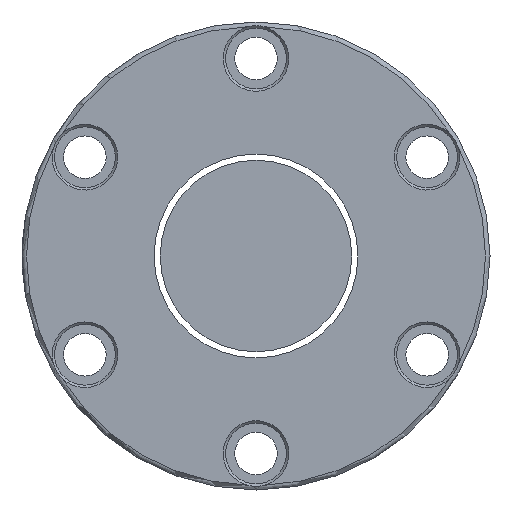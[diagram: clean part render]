
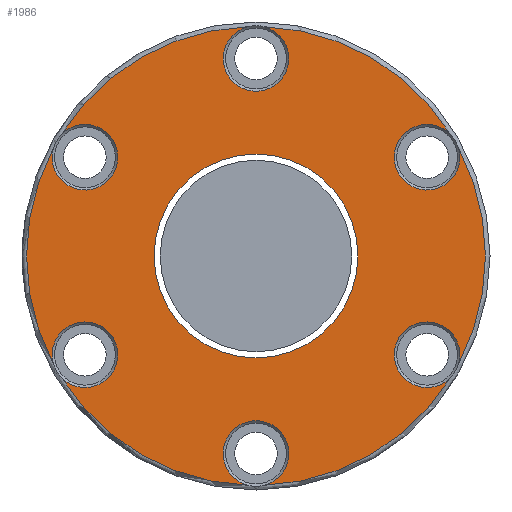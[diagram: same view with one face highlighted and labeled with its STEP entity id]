
A CAD part, left-side view. The second image highlights one B-rep face of the part: STEP entity #1986.
In plain terms, the highlighted planar face has unit normal (-1, 0, 0).
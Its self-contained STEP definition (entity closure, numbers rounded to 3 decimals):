
#8 = DIRECTION ( 'NONE',  ( -1., 0., 0. ) ) ;
#144 = PLANE ( 'NONE',  #2792 ) ;
#153 = ORIENTED_EDGE ( 'NONE', *, *, #2404, .T. ) ;
#173 = EDGE_CURVE ( 'NONE', #341, #1084, #1391, .T. ) ;
#187 = DIRECTION ( 'NONE',  ( 0., 0., -1. ) ) ;
#222 = CARTESIAN_POINT ( 'NONE',  ( -105., -63.98, 40.084 ) ) ;
#241 = CIRCLE ( 'NONE', #1026, 10.8 ) ;
#251 = ORIENTED_EDGE ( 'NONE', *, *, #1995, .T. ) ;
#273 = CARTESIAN_POINT ( 'NONE',  ( -105., 2.724, -75.451 ) ) ;
#285 = VERTEX_POINT ( 'NONE', #3131 ) ;
#305 = CIRCLE ( 'NONE', #474, 33.55 ) ;
#309 = CARTESIAN_POINT ( 'NONE',  ( -105., -56.292, 32.5 ) ) ;
#341 = VERTEX_POINT ( 'NONE', #2120 ) ;
#387 = DIRECTION ( 'NONE',  ( 0., 0., 1. ) ) ;
#392 = DIRECTION ( 'NONE',  ( 0., 0., 1. ) ) ;
#413 = CIRCLE ( 'NONE', #857, 10.8 ) ;
#419 = DIRECTION ( 'NONE',  ( 1., 0., 0. ) ) ;
#441 = FACE_OUTER_BOUND ( 'NONE', #2894, .T. ) ;
#474 = AXIS2_PLACEMENT_3D ( 'NONE', #3413, #2096, #187 ) ;
#517 = CARTESIAN_POINT ( 'NONE',  ( -105., 0., 0. ) ) ;
#521 = CARTESIAN_POINT ( 'NONE',  ( -105., -66.704, -35.366 ) ) ;
#705 = CARTESIAN_POINT ( 'NONE',  ( -105., 0., 0. ) ) ;
#734 = DIRECTION ( 'NONE',  ( -1., 0., 0. ) ) ;
#747 = AXIS2_PLACEMENT_3D ( 'NONE', #1987, #1476, #3042 ) ;
#776 = ORIENTED_EDGE ( 'NONE', *, *, #1338, .T. ) ;
#857 = AXIS2_PLACEMENT_3D ( 'NONE', #309, #1649, #1364 ) ;
#865 = AXIS2_PLACEMENT_3D ( 'NONE', #2569, #2301, #2587 ) ;
#912 = CARTESIAN_POINT ( 'NONE',  ( -105., -66.704, 35.366 ) ) ;
#920 = CIRCLE ( 'NONE', #1031, 10.8 ) ;
#932 = CARTESIAN_POINT ( 'NONE',  ( -105., 77., 0. ) ) ;
#968 = CIRCLE ( 'NONE', #747, 75.5 ) ;
#971 = VERTEX_POINT ( 'NONE', #2026 ) ;
#1012 = CARTESIAN_POINT ( 'NONE',  ( -105., 56.292, -32.5 ) ) ;
#1022 = EDGE_CURVE ( 'NONE', #285, #2076, #1186, .T. ) ;
#1026 = AXIS2_PLACEMENT_3D ( 'NONE', #1054, #2689, #1897 ) ;
#1031 = AXIS2_PLACEMENT_3D ( 'NONE', #1146, #419, #387 ) ;
#1054 = CARTESIAN_POINT ( 'NONE',  ( -105., 0., -65. ) ) ;
#1068 = VERTEX_POINT ( 'NONE', #2907 ) ;
#1084 = VERTEX_POINT ( 'NONE', #1544 ) ;
#1137 = ORIENTED_EDGE ( 'NONE', *, *, #1507, .T. ) ;
#1146 = CARTESIAN_POINT ( 'NONE',  ( -105., -56.292, -32.5 ) ) ;
#1152 = EDGE_CURVE ( 'NONE', #3423, #285, #3130, .T. ) ;
#1186 = CIRCLE ( 'NONE', #2074, 10.8 ) ;
#1189 = AXIS2_PLACEMENT_3D ( 'NONE', #2758, #2243, #1214 ) ;
#1200 = DIRECTION ( 'NONE',  ( -1., 0., 0. ) ) ;
#1214 = DIRECTION ( 'NONE',  ( 0., 0., 1. ) ) ;
#1337 = ORIENTED_EDGE ( 'NONE', *, *, #2993, .T. ) ;
#1338 = EDGE_CURVE ( 'NONE', #1878, #2598, #413, .T. ) ;
#1364 = DIRECTION ( 'NONE',  ( 0., 0., 1. ) ) ;
#1391 = CIRCLE ( 'NONE', #2885, 75.5 ) ;
#1408 = CIRCLE ( 'NONE', #1189, 10.8 ) ;
#1476 = DIRECTION ( 'NONE',  ( -1., 0., 0. ) ) ;
#1479 = CARTESIAN_POINT ( 'NONE',  ( -105., -2.724, -75.451 ) ) ;
#1507 = EDGE_CURVE ( 'NONE', #3410, #1634, #241, .T. ) ;
#1509 = DIRECTION ( 'NONE',  ( 0., 0., 1. ) ) ;
#1544 = CARTESIAN_POINT ( 'NONE',  ( -105., 63.98, 40.084 ) ) ;
#1581 = ORIENTED_EDGE ( 'NONE', *, *, #3280, .T. ) ;
#1610 = DIRECTION ( 'NONE',  ( 0., 0., 1. ) ) ;
#1615 = ORIENTED_EDGE ( 'NONE', *, *, #1935, .T. ) ;
#1634 = VERTEX_POINT ( 'NONE', #1479 ) ;
#1640 = CIRCLE ( 'NONE', #3246, 75.5 ) ;
#1649 = DIRECTION ( 'NONE',  ( 1., 0., 0. ) ) ;
#1790 = DIRECTION ( 'NONE',  ( 0., 0., 1. ) ) ;
#1822 = CARTESIAN_POINT ( 'NONE',  ( -105., 0., 0. ) ) ;
#1863 = EDGE_LOOP ( 'NONE', ( #1337 ) ) ;
#1871 = ORIENTED_EDGE ( 'NONE', *, *, #173, .T. ) ;
#1878 = VERTEX_POINT ( 'NONE', #912 ) ;
#1897 = DIRECTION ( 'NONE',  ( 0., 0., 1. ) ) ;
#1934 = ORIENTED_EDGE ( 'NONE', *, *, #1022, .T. ) ;
#1935 = EDGE_CURVE ( 'NONE', #2075, #1878, #968, .T. ) ;
#1944 = EDGE_CURVE ( 'NONE', #1068, #341, #1408, .T. ) ;
#1976 = CARTESIAN_POINT ( 'NONE',  ( -105., 66.704, 35.366 ) ) ;
#1986 = ADVANCED_FACE ( 'NONE', ( #441, #2810 ), #144, .T. ) ;
#1987 = CARTESIAN_POINT ( 'NONE',  ( -105., 0., 0. ) ) ;
#1995 = EDGE_CURVE ( 'NONE', #2076, #3410, #3190, .T. ) ;
#2026 = CARTESIAN_POINT ( 'NONE',  ( -105., 0., -33.55 ) ) ;
#2067 = DIRECTION ( 'NONE',  ( 0., 0., 1. ) ) ;
#2074 = AXIS2_PLACEMENT_3D ( 'NONE', #1012, #2354, #2067 ) ;
#2075 = VERTEX_POINT ( 'NONE', #521 ) ;
#2076 = VERTEX_POINT ( 'NONE', #3403 ) ;
#2096 = DIRECTION ( 'NONE',  ( 1., 0., 0. ) ) ;
#2120 = CARTESIAN_POINT ( 'NONE',  ( -105., 2.724, 75.451 ) ) ;
#2128 = DIRECTION ( 'NONE',  ( 0., 0., 1. ) ) ;
#2226 = DIRECTION ( 'NONE',  ( 0., 0., 1. ) ) ;
#2243 = DIRECTION ( 'NONE',  ( 1., 0., 0. ) ) ;
#2259 = CARTESIAN_POINT ( 'NONE',  ( -105., 0., 0. ) ) ;
#2291 = AXIS2_PLACEMENT_3D ( 'NONE', #1822, #734, #1790 ) ;
#2292 = DIRECTION ( 'NONE',  ( -1., 0., 0. ) ) ;
#2301 = DIRECTION ( 'NONE',  ( 1., 0., 0. ) ) ;
#2354 = DIRECTION ( 'NONE',  ( 1., 0., 0. ) ) ;
#2404 = EDGE_CURVE ( 'NONE', #3062, #2075, #920, .T. ) ;
#2564 = AXIS2_PLACEMENT_3D ( 'NONE', #517, #3176, #1610 ) ;
#2565 = EDGE_CURVE ( 'NONE', #1084, #3423, #2959, .T. ) ;
#2569 = CARTESIAN_POINT ( 'NONE',  ( -105., 56.292, 32.5 ) ) ;
#2587 = DIRECTION ( 'NONE',  ( 0., 0., 1. ) ) ;
#2598 = VERTEX_POINT ( 'NONE', #222 ) ;
#2612 = ORIENTED_EDGE ( 'NONE', *, *, #1944, .T. ) ;
#2615 = CIRCLE ( 'NONE', #2564, 75.5 ) ;
#2654 = CARTESIAN_POINT ( 'NONE',  ( -105., 0., 0. ) ) ;
#2668 = ORIENTED_EDGE ( 'NONE', *, *, #3343, .T. ) ;
#2689 = DIRECTION ( 'NONE',  ( 1., 0., 0. ) ) ;
#2758 = CARTESIAN_POINT ( 'NONE',  ( -105., 0., 65. ) ) ;
#2792 = AXIS2_PLACEMENT_3D ( 'NONE', #932, #1200, #392 ) ;
#2810 = FACE_BOUND ( 'NONE', #1863, .T. ) ;
#2885 = AXIS2_PLACEMENT_3D ( 'NONE', #705, #2292, #1509 ) ;
#2894 = EDGE_LOOP ( 'NONE', ( #2612, #1871, #3409, #3170, #1934, #251, #1137, #2668, #153, #1615, #776, #1581 ) ) ;
#2907 = CARTESIAN_POINT ( 'NONE',  ( -105., -2.724, 75.451 ) ) ;
#2942 = CARTESIAN_POINT ( 'NONE',  ( -105., -63.98, -40.084 ) ) ;
#2959 = CIRCLE ( 'NONE', #865, 10.8 ) ;
#2993 = EDGE_CURVE ( 'NONE', #971, #971, #305, .T. ) ;
#3017 = AXIS2_PLACEMENT_3D ( 'NONE', #2259, #3320, #2226 ) ;
#3042 = DIRECTION ( 'NONE',  ( 0., 0., 1. ) ) ;
#3062 = VERTEX_POINT ( 'NONE', #2942 ) ;
#3130 = CIRCLE ( 'NONE', #2291, 75.5 ) ;
#3131 = CARTESIAN_POINT ( 'NONE',  ( -105., 66.704, -35.366 ) ) ;
#3170 = ORIENTED_EDGE ( 'NONE', *, *, #1152, .T. ) ;
#3176 = DIRECTION ( 'NONE',  ( -1., 0., 0. ) ) ;
#3190 = CIRCLE ( 'NONE', #3017, 75.5 ) ;
#3246 = AXIS2_PLACEMENT_3D ( 'NONE', #2654, #8, #2128 ) ;
#3280 = EDGE_CURVE ( 'NONE', #2598, #1068, #2615, .T. ) ;
#3320 = DIRECTION ( 'NONE',  ( -1., 0., 0. ) ) ;
#3343 = EDGE_CURVE ( 'NONE', #1634, #3062, #1640, .T. ) ;
#3403 = CARTESIAN_POINT ( 'NONE',  ( -105., 63.98, -40.084 ) ) ;
#3409 = ORIENTED_EDGE ( 'NONE', *, *, #2565, .T. ) ;
#3410 = VERTEX_POINT ( 'NONE', #273 ) ;
#3413 = CARTESIAN_POINT ( 'NONE',  ( -105., 0., 0. ) ) ;
#3423 = VERTEX_POINT ( 'NONE', #1976 ) ;
